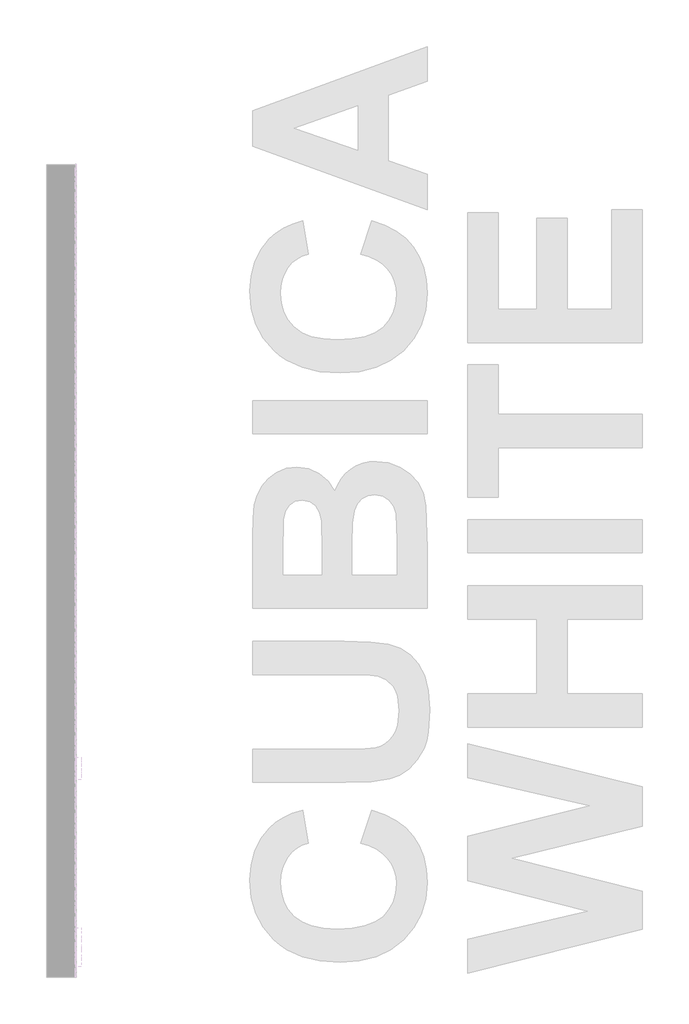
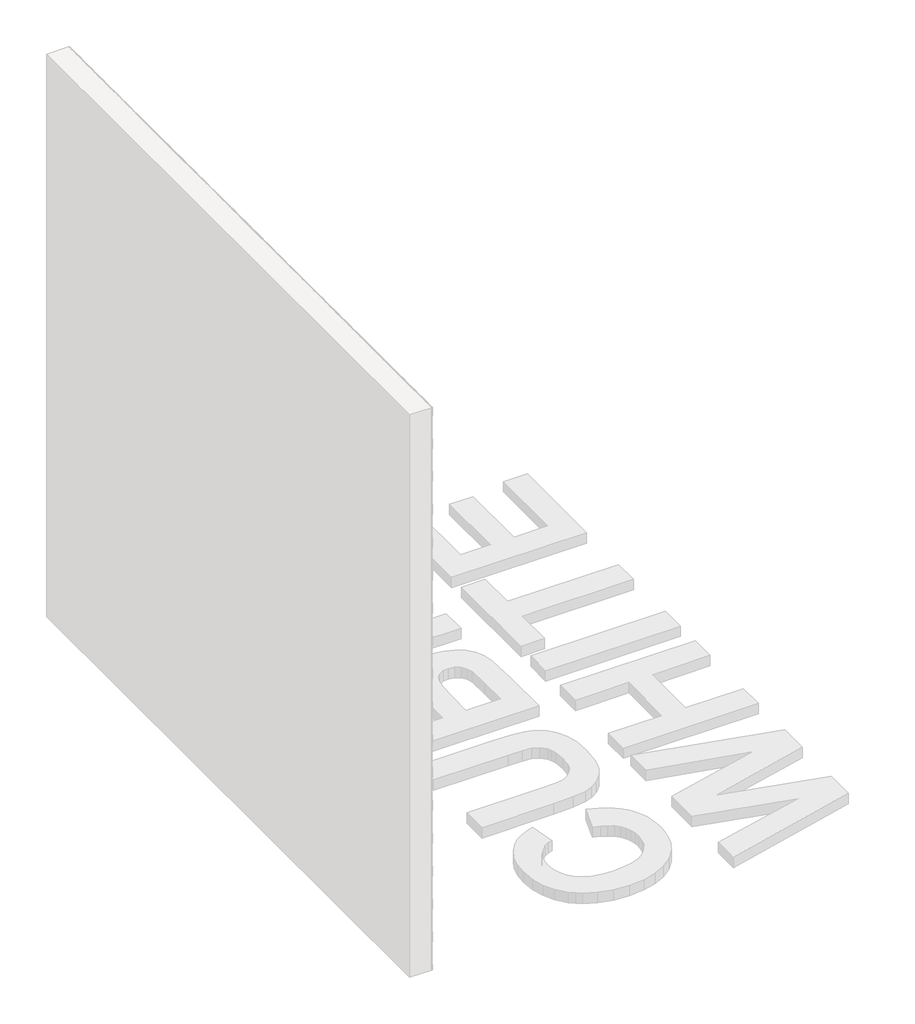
# One storey, part 107 of 121: 145 proxies.
"""IFC4 building model written with IfcOpenShell, lengths in millimetres."""

from ifc_helpers import new_model, si_unit, origin, place, context, project, spatial, transform, mapped, element, save
from components import generic_models_b2b2c5c1, generic_models_9bf73f6f, generic_models_5d175859

model = new_model("IFC4")

# Units and contexts
model_context = context("Model", 3, world=origin())
ifc_project = project(units=[si_unit("LENGTHUNIT", "METRE", prefix="MILLI")], contexts=[model_context])

# Site, building, storey
site = spatial("IfcSite", under=ifc_project)
building = spatial("IfcBuilding", under=site)
storey = spatial("IfcBuildingStorey", under=building, Name="PORTOBELLO - SHOWROOM", Elevation=0.0)

# Proxies
placement = place(None, origin())
generic_models_shape = generic_models_b2b2c5c1(model_context)
element("IfcBuildingElementProxy", 1, Name="PBSHOP - CUBICA WHITE 4,8X8,3 : CUBICA WHITE - POSIÇÃO 01", ObjectType="PBSHOP - CUBICA WHITE 4,8X8,3 : CUBICA WHITE - POSIÇÃO 01", at=placement, inside=storey, context=model_context, shape_type="MappedRepresentation", body=[
    mapped(generic_models_shape, transform((150369.5341846, 20740.8153227, 828.7685506), x_axis=(0.0, 1.0, 0.0), y_axis=(0.0, 0.0, 1.0), z_axis=(1.0, 0.0, 0.0))),
])
element("IfcBuildingElementProxy", 2, Name="PBSHOP - CUBICA WHITE 4,8X8,3 : CUBICA WHITE - POSIÇÃO 01", ObjectType="PBSHOP - CUBICA WHITE 4,8X8,3 : CUBICA WHITE - POSIÇÃO 01", at=placement, inside=storey, context=model_context, shape_type="MappedRepresentation", body=[
    mapped(generic_models_shape, transform((150369.5341846, 20831.654592, 828.7685506), x_axis=(0.0, 1.0, 0.0), y_axis=(0.0, 0.0, 1.0), z_axis=(1.0, 0.0, 0.0))),
])
element("IfcBuildingElementProxy", 3, Name="PBSHOP - CUBICA WHITE 4,8X8,3 : CUBICA WHITE - POSIÇÃO 01", ObjectType="PBSHOP - CUBICA WHITE 4,8X8,3 : CUBICA WHITE - POSIÇÃO 01", at=placement, inside=storey, context=model_context, shape_type="MappedRepresentation", body=[
    mapped(generic_models_shape, transform((150369.5341846, 20922.4938612, 828.7685506), x_axis=(0.0, 1.0, 0.0), y_axis=(0.0, 0.0, 1.0), z_axis=(1.0, 0.0, 0.0))),
])
element("IfcBuildingElementProxy", 4, Name="PBSHOP - CUBICA WHITE 4,8X8,3 : CUBICA WHITE - POSIÇÃO 01", ObjectType="PBSHOP - CUBICA WHITE 4,8X8,3 : CUBICA WHITE - POSIÇÃO 01", at=placement, inside=storey, context=model_context, shape_type="MappedRepresentation", body=[
    mapped(generic_models_shape, transform((150369.5341846, 20059.5208034, 907.7031889), x_axis=(0.0, 1.0, 0.0), y_axis=(0.0, 0.0, 1.0), z_axis=(1.0, 0.0, 0.0))),
])
element("IfcBuildingElementProxy", 5, Name="PBSHOP - CUBICA WHITE 4,8X8,3 : CUBICA WHITE - POSIÇÃO 01", ObjectType="PBSHOP - CUBICA WHITE 4,8X8,3 : CUBICA WHITE - POSIÇÃO 01", at=placement, inside=storey, context=model_context, shape_type="MappedRepresentation", body=[
    mapped(generic_models_shape, transform((150369.5341846, 20150.3600726, 907.7031889), x_axis=(0.0, 1.0, 0.0), y_axis=(0.0, 0.0, 1.0), z_axis=(1.0, 0.0, 0.0))),
])
element("IfcBuildingElementProxy", 6, Name="PBSHOP - CUBICA WHITE 4,8X8,3 : CUBICA WHITE - POSIÇÃO 01", ObjectType="PBSHOP - CUBICA WHITE 4,8X8,3 : CUBICA WHITE - POSIÇÃO 01", at=placement, inside=storey, context=model_context, shape_type="MappedRepresentation", body=[
    mapped(generic_models_shape, transform((150369.5341846, 20241.1993419, 907.7031889), x_axis=(0.0, 1.0, 0.0), y_axis=(0.0, 0.0, 1.0), z_axis=(1.0, 0.0, 0.0))),
])
element("IfcBuildingElementProxy", 7, Name="PBSHOP - CUBICA WHITE 4,8X8,3 : CUBICA WHITE - POSIÇÃO 01", ObjectType="PBSHOP - CUBICA WHITE 4,8X8,3 : CUBICA WHITE - POSIÇÃO 01", at=placement, inside=storey, context=model_context, shape_type="MappedRepresentation", body=[
    mapped(generic_models_shape, transform((150369.5341846, 20332.0386111, 907.7031889), x_axis=(0.0, 1.0, 0.0), y_axis=(0.0, 0.0, 1.0), z_axis=(1.0, 0.0, 0.0))),
])
element("IfcBuildingElementProxy", 8, Name="PBSHOP - CUBICA WHITE 4,8X8,3 : CUBICA WHITE - POSIÇÃO 01", ObjectType="PBSHOP - CUBICA WHITE 4,8X8,3 : CUBICA WHITE - POSIÇÃO 01", at=placement, inside=storey, context=model_context, shape_type="MappedRepresentation", body=[
    mapped(generic_models_shape, transform((150369.5341846, 20422.8778804, 907.7031889), x_axis=(0.0, 1.0, 0.0), y_axis=(0.0, 0.0, 1.0), z_axis=(1.0, 0.0, 0.0))),
])
element("IfcBuildingElementProxy", 9, Name="PBSHOP - CUBICA WHITE 4,8X8,3 : CUBICA WHITE - POSIÇÃO 01", ObjectType="PBSHOP - CUBICA WHITE 4,8X8,3 : CUBICA WHITE - POSIÇÃO 01", at=placement, inside=storey, context=model_context, shape_type="MappedRepresentation", body=[
    mapped(generic_models_shape, transform((150369.5341846, 20513.7171496, 907.7031889), x_axis=(0.0, 1.0, 0.0), y_axis=(0.0, 0.0, 1.0), z_axis=(1.0, 0.0, 0.0))),
])
element("IfcBuildingElementProxy", 10, Name="PBSHOP - CUBICA WHITE 4,8X8,3 : CUBICA WHITE - POSIÇÃO 01", ObjectType="PBSHOP - CUBICA WHITE 4,8X8,3 : CUBICA WHITE - POSIÇÃO 01", at=placement, inside=storey, context=model_context, shape_type="MappedRepresentation", body=[
    mapped(generic_models_shape, transform((150369.5341846, 20604.5564189, 907.7031889), x_axis=(0.0, 1.0, 0.0), y_axis=(0.0, 0.0, 1.0), z_axis=(1.0, 0.0, 0.0))),
])
element("IfcBuildingElementProxy", 11, Name="PBSHOP - CUBICA WHITE 4,8X8,3 : CUBICA WHITE - POSIÇÃO 01", ObjectType="PBSHOP - CUBICA WHITE 4,8X8,3 : CUBICA WHITE - POSIÇÃO 01", at=placement, inside=storey, context=model_context, shape_type="MappedRepresentation", body=[
    mapped(generic_models_shape, transform((150369.5341846, 20695.3956881, 907.7031889), x_axis=(0.0, 1.0, 0.0), y_axis=(0.0, 0.0, 1.0), z_axis=(1.0, 0.0, 0.0))),
])
element("IfcBuildingElementProxy", 12, Name="PBSHOP - CUBICA WHITE 4,8X8,3 : CUBICA WHITE - POSIÇÃO 01", ObjectType="PBSHOP - CUBICA WHITE 4,8X8,3 : CUBICA WHITE - POSIÇÃO 01", at=placement, inside=storey, context=model_context, shape_type="MappedRepresentation", body=[
    mapped(generic_models_shape, transform((150369.5341846, 20786.2349573, 907.7031889), x_axis=(0.0, 1.0, 0.0), y_axis=(0.0, 0.0, 1.0), z_axis=(1.0, 0.0, 0.0))),
])
element("IfcBuildingElementProxy", 13, Name="PBSHOP - CUBICA WHITE 4,8X8,3 : CUBICA WHITE - POSIÇÃO 01", ObjectType="PBSHOP - CUBICA WHITE 4,8X8,3 : CUBICA WHITE - POSIÇÃO 01", at=placement, inside=storey, context=model_context, shape_type="MappedRepresentation", body=[
    mapped(generic_models_shape, transform((150369.5341846, 20877.0742266, 907.7031889), x_axis=(0.0, 1.0, 0.0), y_axis=(0.0, 0.0, 1.0), z_axis=(1.0, 0.0, 0.0))),
])
element("IfcBuildingElementProxy", 14, Name="PBSHOP - CUBICA WHITE 4,8X8,3 : CUBICA WHITE - POSIÇÃO 01", ObjectType="PBSHOP - CUBICA WHITE 4,8X8,3 : CUBICA WHITE - POSIÇÃO 01", at=placement, inside=storey, context=model_context, shape_type="MappedRepresentation", body=[
    mapped(generic_models_shape, transform((150369.5341846, 20967.9134958, 907.7031889), x_axis=(0.0, 1.0, 0.0), y_axis=(0.0, 0.0, 1.0), z_axis=(1.0, 0.0, 0.0))),
])
element("IfcBuildingElementProxy", 15, Name="PBSHOP - CUBICA WHITE 4,8X8,3 : CUBICA WHITE - POSIÇÃO 01", ObjectType="PBSHOP - CUBICA WHITE 4,8X8,3 : CUBICA WHITE - POSIÇÃO 01", at=placement, inside=storey, context=model_context, shape_type="MappedRepresentation", body=[
    mapped(generic_models_shape, transform((150369.5341846, 20014.1011688, 986.6378273), x_axis=(0.0, 1.0, 0.0), y_axis=(0.0, 0.0, 1.0), z_axis=(1.0, 0.0, 0.0))),
])
element("IfcBuildingElementProxy", 16, Name="PBSHOP - CUBICA WHITE 4,8X8,3 : CUBICA WHITE - POSIÇÃO 01", ObjectType="PBSHOP - CUBICA WHITE 4,8X8,3 : CUBICA WHITE - POSIÇÃO 01", at=placement, inside=storey, context=model_context, shape_type="MappedRepresentation", body=[
    mapped(generic_models_shape, transform((150369.5341846, 20104.940438, 986.6378273), x_axis=(0.0, 1.0, 0.0), y_axis=(0.0, 0.0, 1.0), z_axis=(1.0, 0.0, 0.0))),
])
element("IfcBuildingElementProxy", 17, Name="PBSHOP - CUBICA WHITE 4,8X8,3 : CUBICA WHITE - POSIÇÃO 01", ObjectType="PBSHOP - CUBICA WHITE 4,8X8,3 : CUBICA WHITE - POSIÇÃO 01", at=placement, inside=storey, context=model_context, shape_type="MappedRepresentation", body=[
    mapped(generic_models_shape, transform((150369.5341846, 20195.7797073, 986.6378273), x_axis=(0.0, 1.0, 0.0), y_axis=(0.0, 0.0, 1.0), z_axis=(1.0, 0.0, 0.0))),
])
element("IfcBuildingElementProxy", 18, Name="PBSHOP - CUBICA WHITE 4,8X8,3 : CUBICA WHITE - POSIÇÃO 01", ObjectType="PBSHOP - CUBICA WHITE 4,8X8,3 : CUBICA WHITE - POSIÇÃO 01", at=placement, inside=storey, context=model_context, shape_type="MappedRepresentation", body=[
    mapped(generic_models_shape, transform((150369.5341846, 20286.6189765, 986.6378273), x_axis=(0.0, 1.0, 0.0), y_axis=(0.0, 0.0, 1.0), z_axis=(1.0, 0.0, 0.0))),
])
element("IfcBuildingElementProxy", 19, Name="PBSHOP - CUBICA WHITE 4,8X8,3 : CUBICA WHITE - POSIÇÃO 01", ObjectType="PBSHOP - CUBICA WHITE 4,8X8,3 : CUBICA WHITE - POSIÇÃO 01", at=placement, inside=storey, context=model_context, shape_type="MappedRepresentation", body=[
    mapped(generic_models_shape, transform((150369.5341846, 20377.4582457, 986.6378273), x_axis=(0.0, 1.0, 0.0), y_axis=(0.0, 0.0, 1.0), z_axis=(1.0, 0.0, 0.0))),
])
element("IfcBuildingElementProxy", 20, Name="PBSHOP - CUBICA WHITE 4,8X8,3 : CUBICA WHITE - POSIÇÃO 01", ObjectType="PBSHOP - CUBICA WHITE 4,8X8,3 : CUBICA WHITE - POSIÇÃO 01", at=placement, inside=storey, context=model_context, shape_type="MappedRepresentation", body=[
    mapped(generic_models_shape, transform((150369.5341846, 20468.297515, 986.6378273), x_axis=(0.0, 1.0, 0.0), y_axis=(0.0, 0.0, 1.0), z_axis=(1.0, 0.0, 0.0))),
])
element("IfcBuildingElementProxy", 21, Name="PBSHOP - CUBICA WHITE 4,8X8,3 : CUBICA WHITE - POSIÇÃO 01", ObjectType="PBSHOP - CUBICA WHITE 4,8X8,3 : CUBICA WHITE - POSIÇÃO 01", at=placement, inside=storey, context=model_context, shape_type="MappedRepresentation", body=[
    mapped(generic_models_shape, transform((150369.5341846, 20559.1367842, 986.6378273), x_axis=(0.0, 1.0, 0.0), y_axis=(0.0, 0.0, 1.0), z_axis=(1.0, 0.0, 0.0))),
])
element("IfcBuildingElementProxy", 22, Name="PBSHOP - CUBICA WHITE 4,8X8,3 : CUBICA WHITE - POSIÇÃO 01", ObjectType="PBSHOP - CUBICA WHITE 4,8X8,3 : CUBICA WHITE - POSIÇÃO 01", at=placement, inside=storey, context=model_context, shape_type="MappedRepresentation", body=[
    mapped(generic_models_shape, transform((150369.5341846, 20649.9760535, 986.6378273), x_axis=(0.0, 1.0, 0.0), y_axis=(0.0, 0.0, 1.0), z_axis=(1.0, 0.0, 0.0))),
])
element("IfcBuildingElementProxy", 23, Name="PBSHOP - CUBICA WHITE 4,8X8,3 : CUBICA WHITE - POSIÇÃO 01", ObjectType="PBSHOP - CUBICA WHITE 4,8X8,3 : CUBICA WHITE - POSIÇÃO 01", at=placement, inside=storey, context=model_context, shape_type="MappedRepresentation", body=[
    mapped(generic_models_shape, transform((150369.5341846, 20740.8153227, 986.6378273), x_axis=(0.0, 1.0, 0.0), y_axis=(0.0, 0.0, 1.0), z_axis=(1.0, 0.0, 0.0))),
])
element("IfcBuildingElementProxy", 24, Name="PBSHOP - CUBICA WHITE 4,8X8,3 : CUBICA WHITE - POSIÇÃO 01", ObjectType="PBSHOP - CUBICA WHITE 4,8X8,3 : CUBICA WHITE - POSIÇÃO 01", at=placement, inside=storey, context=model_context, shape_type="MappedRepresentation", body=[
    mapped(generic_models_shape, transform((150369.5341846, 20831.654592, 986.6378273), x_axis=(0.0, 1.0, 0.0), y_axis=(0.0, 0.0, 1.0), z_axis=(1.0, 0.0, 0.0))),
])
element("IfcBuildingElementProxy", 25, Name="PBSHOP - CUBICA WHITE 4,8X8,3 : CUBICA WHITE - POSIÇÃO 01", ObjectType="PBSHOP - CUBICA WHITE 4,8X8,3 : CUBICA WHITE - POSIÇÃO 01", at=placement, inside=storey, context=model_context, shape_type="MappedRepresentation", body=[
    mapped(generic_models_shape, transform((150369.5341846, 20922.4938612, 986.6378273), x_axis=(0.0, 1.0, 0.0), y_axis=(0.0, 0.0, 1.0), z_axis=(1.0, 0.0, 0.0))),
])
element("IfcBuildingElementProxy", 26, Name="PBSHOP - CUBICA WHITE 4,8X8,3 : CUBICA WHITE - POSIÇÃO 01", ObjectType="PBSHOP - CUBICA WHITE 4,8X8,3 : CUBICA WHITE - POSIÇÃO 01", at=placement, inside=storey, context=model_context, shape_type="MappedRepresentation", body=[
    mapped(generic_models_shape, transform((150369.5341846, 20059.5208034, 1065.5724657), x_axis=(0.0, 1.0, 0.0), y_axis=(0.0, 0.0, 1.0), z_axis=(1.0, 0.0, 0.0))),
])
element("IfcBuildingElementProxy", 27, Name="PBSHOP - CUBICA WHITE 4,8X8,3 : CUBICA WHITE - POSIÇÃO 01", ObjectType="PBSHOP - CUBICA WHITE 4,8X8,3 : CUBICA WHITE - POSIÇÃO 01", at=placement, inside=storey, context=model_context, shape_type="MappedRepresentation", body=[
    mapped(generic_models_shape, transform((150369.5341846, 20150.3600726, 1065.5724657), x_axis=(0.0, 1.0, 0.0), y_axis=(0.0, 0.0, 1.0), z_axis=(1.0, 0.0, 0.0))),
])
element("IfcBuildingElementProxy", 28, Name="PBSHOP - CUBICA WHITE 4,8X8,3 : CUBICA WHITE - POSIÇÃO 01", ObjectType="PBSHOP - CUBICA WHITE 4,8X8,3 : CUBICA WHITE - POSIÇÃO 01", at=placement, inside=storey, context=model_context, shape_type="MappedRepresentation", body=[
    mapped(generic_models_shape, transform((150369.5341846, 20241.1993419, 1065.5724657), x_axis=(0.0, 1.0, 0.0), y_axis=(0.0, 0.0, 1.0), z_axis=(1.0, 0.0, 0.0))),
])
element("IfcBuildingElementProxy", 29, Name="PBSHOP - CUBICA WHITE 4,8X8,3 : CUBICA WHITE - POSIÇÃO 01", ObjectType="PBSHOP - CUBICA WHITE 4,8X8,3 : CUBICA WHITE - POSIÇÃO 01", at=placement, inside=storey, context=model_context, shape_type="MappedRepresentation", body=[
    mapped(generic_models_shape, transform((150369.5341846, 20332.0386111, 1065.5724657), x_axis=(0.0, 1.0, 0.0), y_axis=(0.0, 0.0, 1.0), z_axis=(1.0, 0.0, 0.0))),
])
element("IfcBuildingElementProxy", 30, Name="PBSHOP - CUBICA WHITE 4,8X8,3 : CUBICA WHITE - POSIÇÃO 01", ObjectType="PBSHOP - CUBICA WHITE 4,8X8,3 : CUBICA WHITE - POSIÇÃO 01", at=placement, inside=storey, context=model_context, shape_type="MappedRepresentation", body=[
    mapped(generic_models_shape, transform((150369.5341846, 20422.8778804, 1065.5724657), x_axis=(0.0, 1.0, 0.0), y_axis=(0.0, 0.0, 1.0), z_axis=(1.0, 0.0, 0.0))),
])
element("IfcBuildingElementProxy", 31, Name="PBSHOP - CUBICA WHITE 4,8X8,3 : CUBICA WHITE - POSIÇÃO 01", ObjectType="PBSHOP - CUBICA WHITE 4,8X8,3 : CUBICA WHITE - POSIÇÃO 01", at=placement, inside=storey, context=model_context, shape_type="MappedRepresentation", body=[
    mapped(generic_models_shape, transform((150369.5341846, 20513.7171496, 1065.5724657), x_axis=(0.0, 1.0, 0.0), y_axis=(0.0, 0.0, 1.0), z_axis=(1.0, 0.0, 0.0))),
])
element("IfcBuildingElementProxy", 32, Name="PBSHOP - CUBICA WHITE 4,8X8,3 : CUBICA WHITE - POSIÇÃO 01", ObjectType="PBSHOP - CUBICA WHITE 4,8X8,3 : CUBICA WHITE - POSIÇÃO 01", at=placement, inside=storey, context=model_context, shape_type="MappedRepresentation", body=[
    mapped(generic_models_shape, transform((150369.5341846, 20604.5564189, 1065.5724657), x_axis=(0.0, 1.0, 0.0), y_axis=(0.0, 0.0, 1.0), z_axis=(1.0, 0.0, 0.0))),
])
element("IfcBuildingElementProxy", 33, Name="PBSHOP - CUBICA WHITE 4,8X8,3 : CUBICA WHITE - POSIÇÃO 01", ObjectType="PBSHOP - CUBICA WHITE 4,8X8,3 : CUBICA WHITE - POSIÇÃO 01", at=placement, inside=storey, context=model_context, shape_type="MappedRepresentation", body=[
    mapped(generic_models_shape, transform((150369.5341846, 20695.3956881, 1065.5724657), x_axis=(0.0, 1.0, 0.0), y_axis=(0.0, 0.0, 1.0), z_axis=(1.0, 0.0, 0.0))),
])
element("IfcBuildingElementProxy", 34, Name="PBSHOP - CUBICA WHITE 4,8X8,3 : CUBICA WHITE - POSIÇÃO 01", ObjectType="PBSHOP - CUBICA WHITE 4,8X8,3 : CUBICA WHITE - POSIÇÃO 01", at=placement, inside=storey, context=model_context, shape_type="MappedRepresentation", body=[
    mapped(generic_models_shape, transform((150369.5341846, 20786.2349573, 1065.5724657), x_axis=(0.0, 1.0, 0.0), y_axis=(0.0, 0.0, 1.0), z_axis=(1.0, 0.0, 0.0))),
])
element("IfcBuildingElementProxy", 35, Name="PBSHOP - CUBICA WHITE 4,8X8,3 : CUBICA WHITE - POSIÇÃO 01", ObjectType="PBSHOP - CUBICA WHITE 4,8X8,3 : CUBICA WHITE - POSIÇÃO 01", at=placement, inside=storey, context=model_context, shape_type="MappedRepresentation", body=[
    mapped(generic_models_shape, transform((150369.5341846, 20877.0742266, 1065.5724657), x_axis=(0.0, 1.0, 0.0), y_axis=(0.0, 0.0, 1.0), z_axis=(1.0, 0.0, 0.0))),
])
element("IfcBuildingElementProxy", 36, Name="PBSHOP - CUBICA WHITE 4,8X8,3 : CUBICA WHITE - POSIÇÃO 01", ObjectType="PBSHOP - CUBICA WHITE 4,8X8,3 : CUBICA WHITE - POSIÇÃO 01", at=placement, inside=storey, context=model_context, shape_type="MappedRepresentation", body=[
    mapped(generic_models_shape, transform((150369.5341846, 20967.9134958, 1065.5724657), x_axis=(0.0, 1.0, 0.0), y_axis=(0.0, 0.0, 1.0), z_axis=(1.0, 0.0, 0.0))),
])
element("IfcBuildingElementProxy", 37, Name="PBSHOP - CUBICA WHITE 4,8X8,3 : CUBICA WHITE - POSIÇÃO 01", ObjectType="PBSHOP - CUBICA WHITE 4,8X8,3 : CUBICA WHITE - POSIÇÃO 01", at=placement, inside=storey, context=model_context, shape_type="MappedRepresentation", body=[
    mapped(generic_models_shape, transform((150369.5341846, 20014.1011688, 1144.507104), x_axis=(0.0, 1.0, 0.0), y_axis=(0.0, 0.0, 1.0), z_axis=(1.0, 0.0, 0.0))),
])
element("IfcBuildingElementProxy", 38, Name="PBSHOP - CUBICA WHITE 4,8X8,3 : CUBICA WHITE - POSIÇÃO 01", ObjectType="PBSHOP - CUBICA WHITE 4,8X8,3 : CUBICA WHITE - POSIÇÃO 01", at=placement, inside=storey, context=model_context, shape_type="MappedRepresentation", body=[
    mapped(generic_models_shape, transform((150369.5341846, 20104.940438, 1144.507104), x_axis=(0.0, 1.0, 0.0), y_axis=(0.0, 0.0, 1.0), z_axis=(1.0, 0.0, 0.0))),
])
element("IfcBuildingElementProxy", 39, Name="PBSHOP - CUBICA WHITE 4,8X8,3 : CUBICA WHITE - POSIÇÃO 01", ObjectType="PBSHOP - CUBICA WHITE 4,8X8,3 : CUBICA WHITE - POSIÇÃO 01", at=placement, inside=storey, context=model_context, shape_type="MappedRepresentation", body=[
    mapped(generic_models_shape, transform((150369.5341846, 20195.7797073, 1144.507104), x_axis=(0.0, 1.0, 0.0), y_axis=(0.0, 0.0, 1.0), z_axis=(1.0, 0.0, 0.0))),
])
element("IfcBuildingElementProxy", 40, Name="PBSHOP - CUBICA WHITE 4,8X8,3 : CUBICA WHITE - POSIÇÃO 01", ObjectType="PBSHOP - CUBICA WHITE 4,8X8,3 : CUBICA WHITE - POSIÇÃO 01", at=placement, inside=storey, context=model_context, shape_type="MappedRepresentation", body=[
    mapped(generic_models_shape, transform((150369.5341846, 20286.6189765, 1144.507104), x_axis=(0.0, 1.0, 0.0), y_axis=(0.0, 0.0, 1.0), z_axis=(1.0, 0.0, 0.0))),
])
element("IfcBuildingElementProxy", 41, Name="PBSHOP - CUBICA WHITE 4,8X8,3 : CUBICA WHITE - POSIÇÃO 01", ObjectType="PBSHOP - CUBICA WHITE 4,8X8,3 : CUBICA WHITE - POSIÇÃO 01", at=placement, inside=storey, context=model_context, shape_type="MappedRepresentation", body=[
    mapped(generic_models_shape, transform((150369.5341846, 20377.4582457, 1144.507104), x_axis=(0.0, 1.0, 0.0), y_axis=(0.0, 0.0, 1.0), z_axis=(1.0, 0.0, 0.0))),
])
element("IfcBuildingElementProxy", 42, Name="PBSHOP - CUBICA WHITE 4,8X8,3 : CUBICA WHITE - POSIÇÃO 01", ObjectType="PBSHOP - CUBICA WHITE 4,8X8,3 : CUBICA WHITE - POSIÇÃO 01", at=placement, inside=storey, context=model_context, shape_type="MappedRepresentation", body=[
    mapped(generic_models_shape, transform((150369.5341846, 20468.297515, 1144.507104), x_axis=(0.0, 1.0, 0.0), y_axis=(0.0, 0.0, 1.0), z_axis=(1.0, 0.0, 0.0))),
])
element("IfcBuildingElementProxy", 43, Name="PBSHOP - CUBICA WHITE 4,8X8,3 : CUBICA WHITE - POSIÇÃO 01", ObjectType="PBSHOP - CUBICA WHITE 4,8X8,3 : CUBICA WHITE - POSIÇÃO 01", at=placement, inside=storey, context=model_context, shape_type="MappedRepresentation", body=[
    mapped(generic_models_shape, transform((150369.5341846, 20559.1367842, 1144.507104), x_axis=(0.0, 1.0, 0.0), y_axis=(0.0, 0.0, 1.0), z_axis=(1.0, 0.0, 0.0))),
])
element("IfcBuildingElementProxy", 44, Name="PBSHOP - CUBICA WHITE 4,8X8,3 : CUBICA WHITE - POSIÇÃO 01", ObjectType="PBSHOP - CUBICA WHITE 4,8X8,3 : CUBICA WHITE - POSIÇÃO 01", at=placement, inside=storey, context=model_context, shape_type="MappedRepresentation", body=[
    mapped(generic_models_shape, transform((150369.5341846, 20649.9760535, 1144.507104), x_axis=(0.0, 1.0, 0.0), y_axis=(0.0, 0.0, 1.0), z_axis=(1.0, 0.0, 0.0))),
])
element("IfcBuildingElementProxy", 45, Name="PBSHOP - CUBICA WHITE 4,8X8,3 : CUBICA WHITE - POSIÇÃO 01", ObjectType="PBSHOP - CUBICA WHITE 4,8X8,3 : CUBICA WHITE - POSIÇÃO 01", at=placement, inside=storey, context=model_context, shape_type="MappedRepresentation", body=[
    mapped(generic_models_shape, transform((150369.5341846, 20740.8153227, 1144.507104), x_axis=(0.0, 1.0, 0.0), y_axis=(0.0, 0.0, 1.0), z_axis=(1.0, 0.0, 0.0))),
])
element("IfcBuildingElementProxy", 46, Name="PBSHOP - CUBICA WHITE 4,8X8,3 : CUBICA WHITE - POSIÇÃO 01", ObjectType="PBSHOP - CUBICA WHITE 4,8X8,3 : CUBICA WHITE - POSIÇÃO 01", at=placement, inside=storey, context=model_context, shape_type="MappedRepresentation", body=[
    mapped(generic_models_shape, transform((150369.5341846, 20831.654592, 1144.507104), x_axis=(0.0, 1.0, 0.0), y_axis=(0.0, 0.0, 1.0), z_axis=(1.0, 0.0, 0.0))),
])
element("IfcBuildingElementProxy", 47, Name="PBSHOP - CUBICA WHITE 4,8X8,3 : CUBICA WHITE - POSIÇÃO 01", ObjectType="PBSHOP - CUBICA WHITE 4,8X8,3 : CUBICA WHITE - POSIÇÃO 01", at=placement, inside=storey, context=model_context, shape_type="MappedRepresentation", body=[
    mapped(generic_models_shape, transform((150369.5341846, 20922.4938612, 1144.507104), x_axis=(0.0, 1.0, 0.0), y_axis=(0.0, 0.0, 1.0), z_axis=(1.0, 0.0, 0.0))),
])
generic_models_2_shape = generic_models_9bf73f6f(model_context)
element("IfcBuildingElementProxy", 48, Name="PBSHOP - CUBICA WHITE 4,8X8,3 : CUBICA WHITE - POSIÇÃO 03", ObjectType="PBSHOP - CUBICA WHITE 4,8X8,3 : CUBICA WHITE - POSIÇÃO 03", at=placement, inside=storey, context=model_context, shape_type="MappedRepresentation", body=[
    mapped(generic_models_2_shape, transform((150369.5341846, 20082.2327799, 789.2600209), x_axis=(0.0, 1.0, 0.0), y_axis=(0.0, 0.0, 1.0), z_axis=(1.0, 0.0, 0.0))),
])
element("IfcBuildingElementProxy", 49, Name="PBSHOP - CUBICA WHITE 4,8X8,3 : CUBICA WHITE - POSIÇÃO 03", ObjectType="PBSHOP - CUBICA WHITE 4,8X8,3 : CUBICA WHITE - POSIÇÃO 03", at=placement, inside=storey, context=model_context, shape_type="MappedRepresentation", body=[
    mapped(generic_models_2_shape, transform((150369.5341846, 20173.0720491, 789.2600209), x_axis=(0.0, 1.0, 0.0), y_axis=(0.0, 0.0, 1.0), z_axis=(1.0, 0.0, 0.0))),
])
element("IfcBuildingElementProxy", 50, Name="PBSHOP - CUBICA WHITE 4,8X8,3 : CUBICA WHITE - POSIÇÃO 03", ObjectType="PBSHOP - CUBICA WHITE 4,8X8,3 : CUBICA WHITE - POSIÇÃO 03", at=placement, inside=storey, context=model_context, shape_type="MappedRepresentation", body=[
    mapped(generic_models_2_shape, transform((150369.5341846, 20263.9113184, 789.2600209), x_axis=(0.0, 1.0, 0.0), y_axis=(0.0, 0.0, 1.0), z_axis=(1.0, 0.0, 0.0))),
])
element("IfcBuildingElementProxy", 51, Name="PBSHOP - CUBICA WHITE 4,8X8,3 : CUBICA WHITE - POSIÇÃO 03", ObjectType="PBSHOP - CUBICA WHITE 4,8X8,3 : CUBICA WHITE - POSIÇÃO 03", at=placement, inside=storey, context=model_context, shape_type="MappedRepresentation", body=[
    mapped(generic_models_2_shape, transform((150369.5341846, 20354.7505876, 789.2600209), x_axis=(0.0, 1.0, 0.0), y_axis=(0.0, 0.0, 1.0), z_axis=(1.0, 0.0, 0.0))),
])
element("IfcBuildingElementProxy", 52, Name="PBSHOP - CUBICA WHITE 4,8X8,3 : CUBICA WHITE - POSIÇÃO 03", ObjectType="PBSHOP - CUBICA WHITE 4,8X8,3 : CUBICA WHITE - POSIÇÃO 03", at=placement, inside=storey, context=model_context, shape_type="MappedRepresentation", body=[
    mapped(generic_models_2_shape, transform((150369.5341846, 20445.5898568, 789.2600209), x_axis=(0.0, 1.0, 0.0), y_axis=(0.0, 0.0, 1.0), z_axis=(1.0, 0.0, 0.0))),
])
element("IfcBuildingElementProxy", 53, Name="PBSHOP - CUBICA WHITE 4,8X8,3 : CUBICA WHITE - POSIÇÃO 03", ObjectType="PBSHOP - CUBICA WHITE 4,8X8,3 : CUBICA WHITE - POSIÇÃO 03", at=placement, inside=storey, context=model_context, shape_type="MappedRepresentation", body=[
    mapped(generic_models_2_shape, transform((150369.5341846, 20536.4291261, 789.2600209), x_axis=(0.0, 1.0, 0.0), y_axis=(0.0, 0.0, 1.0), z_axis=(1.0, 0.0, 0.0))),
])
element("IfcBuildingElementProxy", 54, Name="PBSHOP - CUBICA WHITE 4,8X8,3 : CUBICA WHITE - POSIÇÃO 03", ObjectType="PBSHOP - CUBICA WHITE 4,8X8,3 : CUBICA WHITE - POSIÇÃO 03", at=placement, inside=storey, context=model_context, shape_type="MappedRepresentation", body=[
    mapped(generic_models_2_shape, transform((150369.5341846, 20627.2683953, 789.2600209), x_axis=(0.0, 1.0, 0.0), y_axis=(0.0, 0.0, 1.0), z_axis=(1.0, 0.0, 0.0))),
])
element("IfcBuildingElementProxy", 55, Name="PBSHOP - CUBICA WHITE 4,8X8,3 : CUBICA WHITE - POSIÇÃO 03", ObjectType="PBSHOP - CUBICA WHITE 4,8X8,3 : CUBICA WHITE - POSIÇÃO 03", at=placement, inside=storey, context=model_context, shape_type="MappedRepresentation", body=[
    mapped(generic_models_2_shape, transform((150369.5341846, 20718.1076646, 789.2600209), x_axis=(0.0, 1.0, 0.0), y_axis=(0.0, 0.0, 1.0), z_axis=(1.0, 0.0, 0.0))),
])
element("IfcBuildingElementProxy", 56, Name="PBSHOP - CUBICA WHITE 4,8X8,3 : CUBICA WHITE - POSIÇÃO 03", ObjectType="PBSHOP - CUBICA WHITE 4,8X8,3 : CUBICA WHITE - POSIÇÃO 03", at=placement, inside=storey, context=model_context, shape_type="MappedRepresentation", body=[
    mapped(generic_models_2_shape, transform((150369.5341846, 20808.9469338, 789.2600209), x_axis=(0.0, 1.0, 0.0), y_axis=(0.0, 0.0, 1.0), z_axis=(1.0, 0.0, 0.0))),
])
element("IfcBuildingElementProxy", 57, Name="PBSHOP - CUBICA WHITE 4,8X8,3 : CUBICA WHITE - POSIÇÃO 03", ObjectType="PBSHOP - CUBICA WHITE 4,8X8,3 : CUBICA WHITE - POSIÇÃO 03", at=placement, inside=storey, context=model_context, shape_type="MappedRepresentation", body=[
    mapped(generic_models_2_shape, transform((150369.5341846, 20899.7862031, 789.2600209), x_axis=(0.0, 1.0, 0.0), y_axis=(0.0, 0.0, 1.0), z_axis=(1.0, 0.0, 0.0))),
])
element("IfcBuildingElementProxy", 58, Name="PBSHOP - CUBICA WHITE 4,8X8,3 : CUBICA WHITE - POSIÇÃO 03", ObjectType="PBSHOP - CUBICA WHITE 4,8X8,3 : CUBICA WHITE - POSIÇÃO 03", at=placement, inside=storey, context=model_context, shape_type="MappedRepresentation", body=[
    mapped(generic_models_2_shape, transform((150369.5341846, 20990.6254723, 789.2600209), x_axis=(0.0, 1.0, 0.0), y_axis=(0.0, 0.0, 1.0), z_axis=(1.0, 0.0, 0.0))),
])
element("IfcBuildingElementProxy", 59, Name="PBSHOP - CUBICA WHITE 4,8X8,3 : CUBICA WHITE - POSIÇÃO 03", ObjectType="PBSHOP - CUBICA WHITE 4,8X8,3 : CUBICA WHITE - POSIÇÃO 03", at=placement, inside=storey, context=model_context, shape_type="MappedRepresentation", body=[
    mapped(generic_models_2_shape, transform((150369.5341846, 20036.8131452, 868.1946593), x_axis=(0.0, 1.0, 0.0), y_axis=(0.0, 0.0, 1.0), z_axis=(1.0, 0.0, 0.0))),
])
element("IfcBuildingElementProxy", 60, Name="PBSHOP - CUBICA WHITE 4,8X8,3 : CUBICA WHITE - POSIÇÃO 03", ObjectType="PBSHOP - CUBICA WHITE 4,8X8,3 : CUBICA WHITE - POSIÇÃO 03", at=placement, inside=storey, context=model_context, shape_type="MappedRepresentation", body=[
    mapped(generic_models_2_shape, transform((150369.5341846, 20127.6524145, 868.1946593), x_axis=(0.0, 1.0, 0.0), y_axis=(0.0, 0.0, 1.0), z_axis=(1.0, 0.0, 0.0))),
])
element("IfcBuildingElementProxy", 61, Name="PBSHOP - CUBICA WHITE 4,8X8,3 : CUBICA WHITE - POSIÇÃO 03", ObjectType="PBSHOP - CUBICA WHITE 4,8X8,3 : CUBICA WHITE - POSIÇÃO 03", at=placement, inside=storey, context=model_context, shape_type="MappedRepresentation", body=[
    mapped(generic_models_2_shape, transform((150369.5341846, 20218.4916837, 868.1946593), x_axis=(0.0, 1.0, 0.0), y_axis=(0.0, 0.0, 1.0), z_axis=(1.0, 0.0, 0.0))),
])
element("IfcBuildingElementProxy", 62, Name="PBSHOP - CUBICA WHITE 4,8X8,3 : CUBICA WHITE - POSIÇÃO 03", ObjectType="PBSHOP - CUBICA WHITE 4,8X8,3 : CUBICA WHITE - POSIÇÃO 03", at=placement, inside=storey, context=model_context, shape_type="MappedRepresentation", body=[
    mapped(generic_models_2_shape, transform((150369.5341846, 20309.330953, 868.1946593), x_axis=(0.0, 1.0, 0.0), y_axis=(0.0, 0.0, 1.0), z_axis=(1.0, 0.0, 0.0))),
])
element("IfcBuildingElementProxy", 63, Name="PBSHOP - CUBICA WHITE 4,8X8,3 : CUBICA WHITE - POSIÇÃO 03", ObjectType="PBSHOP - CUBICA WHITE 4,8X8,3 : CUBICA WHITE - POSIÇÃO 03", at=placement, inside=storey, context=model_context, shape_type="MappedRepresentation", body=[
    mapped(generic_models_2_shape, transform((150369.5341846, 20400.1702222, 868.1946593), x_axis=(0.0, 1.0, 0.0), y_axis=(0.0, 0.0, 1.0), z_axis=(1.0, 0.0, 0.0))),
])
element("IfcBuildingElementProxy", 64, Name="PBSHOP - CUBICA WHITE 4,8X8,3 : CUBICA WHITE - POSIÇÃO 03", ObjectType="PBSHOP - CUBICA WHITE 4,8X8,3 : CUBICA WHITE - POSIÇÃO 03", at=placement, inside=storey, context=model_context, shape_type="MappedRepresentation", body=[
    mapped(generic_models_2_shape, transform((150369.5341846, 20491.0094915, 868.1946593), x_axis=(0.0, 1.0, 0.0), y_axis=(0.0, 0.0, 1.0), z_axis=(1.0, 0.0, 0.0))),
])
element("IfcBuildingElementProxy", 65, Name="PBSHOP - CUBICA WHITE 4,8X8,3 : CUBICA WHITE - POSIÇÃO 03", ObjectType="PBSHOP - CUBICA WHITE 4,8X8,3 : CUBICA WHITE - POSIÇÃO 03", at=placement, inside=storey, context=model_context, shape_type="MappedRepresentation", body=[
    mapped(generic_models_2_shape, transform((150369.5341846, 20581.8487607, 868.1946593), x_axis=(0.0, 1.0, 0.0), y_axis=(0.0, 0.0, 1.0), z_axis=(1.0, 0.0, 0.0))),
])
element("IfcBuildingElementProxy", 66, Name="PBSHOP - CUBICA WHITE 4,8X8,3 : CUBICA WHITE - POSIÇÃO 03", ObjectType="PBSHOP - CUBICA WHITE 4,8X8,3 : CUBICA WHITE - POSIÇÃO 03", at=placement, inside=storey, context=model_context, shape_type="MappedRepresentation", body=[
    mapped(generic_models_2_shape, transform((150369.5341846, 20672.6880299, 868.1946593), x_axis=(0.0, 1.0, 0.0), y_axis=(0.0, 0.0, 1.0), z_axis=(1.0, 0.0, 0.0))),
])
element("IfcBuildingElementProxy", 67, Name="PBSHOP - CUBICA WHITE 4,8X8,3 : CUBICA WHITE - POSIÇÃO 03", ObjectType="PBSHOP - CUBICA WHITE 4,8X8,3 : CUBICA WHITE - POSIÇÃO 03", at=placement, inside=storey, context=model_context, shape_type="MappedRepresentation", body=[
    mapped(generic_models_2_shape, transform((150369.5341846, 20763.5272992, 868.1946593), x_axis=(0.0, 1.0, 0.0), y_axis=(0.0, 0.0, 1.0), z_axis=(1.0, 0.0, 0.0))),
])
element("IfcBuildingElementProxy", 68, Name="PBSHOP - CUBICA WHITE 4,8X8,3 : CUBICA WHITE - POSIÇÃO 03", ObjectType="PBSHOP - CUBICA WHITE 4,8X8,3 : CUBICA WHITE - POSIÇÃO 03", at=placement, inside=storey, context=model_context, shape_type="MappedRepresentation", body=[
    mapped(generic_models_2_shape, transform((150369.5341846, 20854.3665684, 868.1946593), x_axis=(0.0, 1.0, 0.0), y_axis=(0.0, 0.0, 1.0), z_axis=(1.0, 0.0, 0.0))),
])
element("IfcBuildingElementProxy", 69, Name="PBSHOP - CUBICA WHITE 4,8X8,3 : CUBICA WHITE - POSIÇÃO 03", ObjectType="PBSHOP - CUBICA WHITE 4,8X8,3 : CUBICA WHITE - POSIÇÃO 03", at=placement, inside=storey, context=model_context, shape_type="MappedRepresentation", body=[
    mapped(generic_models_2_shape, transform((150369.5341846, 20945.2058377, 868.1946593), x_axis=(0.0, 1.0, 0.0), y_axis=(0.0, 0.0, 1.0), z_axis=(1.0, 0.0, 0.0))),
])
element("IfcBuildingElementProxy", 70, Name="PBSHOP - CUBICA WHITE 4,8X8,3 : CUBICA WHITE - POSIÇÃO 03", ObjectType="PBSHOP - CUBICA WHITE 4,8X8,3 : CUBICA WHITE - POSIÇÃO 03", at=placement, inside=storey, context=model_context, shape_type="MappedRepresentation", body=[
    mapped(generic_models_2_shape, transform((150369.5341846, 20082.2327799, 947.1292977), x_axis=(0.0, 1.0, 0.0), y_axis=(0.0, 0.0, 1.0), z_axis=(1.0, 0.0, 0.0))),
])
element("IfcBuildingElementProxy", 71, Name="PBSHOP - CUBICA WHITE 4,8X8,3 : CUBICA WHITE - POSIÇÃO 03", ObjectType="PBSHOP - CUBICA WHITE 4,8X8,3 : CUBICA WHITE - POSIÇÃO 03", at=placement, inside=storey, context=model_context, shape_type="MappedRepresentation", body=[
    mapped(generic_models_2_shape, transform((150369.5341846, 20173.0720491, 947.1292977), x_axis=(0.0, 1.0, 0.0), y_axis=(0.0, 0.0, 1.0), z_axis=(1.0, 0.0, 0.0))),
])
element("IfcBuildingElementProxy", 72, Name="PBSHOP - CUBICA WHITE 4,8X8,3 : CUBICA WHITE - POSIÇÃO 03", ObjectType="PBSHOP - CUBICA WHITE 4,8X8,3 : CUBICA WHITE - POSIÇÃO 03", at=placement, inside=storey, context=model_context, shape_type="MappedRepresentation", body=[
    mapped(generic_models_2_shape, transform((150369.5341846, 20263.9113184, 947.1292977), x_axis=(0.0, 1.0, 0.0), y_axis=(0.0, 0.0, 1.0), z_axis=(1.0, 0.0, 0.0))),
])
element("IfcBuildingElementProxy", 73, Name="PBSHOP - CUBICA WHITE 4,8X8,3 : CUBICA WHITE - POSIÇÃO 03", ObjectType="PBSHOP - CUBICA WHITE 4,8X8,3 : CUBICA WHITE - POSIÇÃO 03", at=placement, inside=storey, context=model_context, shape_type="MappedRepresentation", body=[
    mapped(generic_models_2_shape, transform((150369.5341846, 20354.7505876, 947.1292977), x_axis=(0.0, 1.0, 0.0), y_axis=(0.0, 0.0, 1.0), z_axis=(1.0, 0.0, 0.0))),
])
element("IfcBuildingElementProxy", 74, Name="PBSHOP - CUBICA WHITE 4,8X8,3 : CUBICA WHITE - POSIÇÃO 03", ObjectType="PBSHOP - CUBICA WHITE 4,8X8,3 : CUBICA WHITE - POSIÇÃO 03", at=placement, inside=storey, context=model_context, shape_type="MappedRepresentation", body=[
    mapped(generic_models_2_shape, transform((150369.5341846, 20445.5898568, 947.1292977), x_axis=(0.0, 1.0, 0.0), y_axis=(0.0, 0.0, 1.0), z_axis=(1.0, 0.0, 0.0))),
])
element("IfcBuildingElementProxy", 75, Name="PBSHOP - CUBICA WHITE 4,8X8,3 : CUBICA WHITE - POSIÇÃO 03", ObjectType="PBSHOP - CUBICA WHITE 4,8X8,3 : CUBICA WHITE - POSIÇÃO 03", at=placement, inside=storey, context=model_context, shape_type="MappedRepresentation", body=[
    mapped(generic_models_2_shape, transform((150369.5341846, 20536.4291261, 947.1292977), x_axis=(0.0, 1.0, 0.0), y_axis=(0.0, 0.0, 1.0), z_axis=(1.0, 0.0, 0.0))),
])
element("IfcBuildingElementProxy", 76, Name="PBSHOP - CUBICA WHITE 4,8X8,3 : CUBICA WHITE - POSIÇÃO 03", ObjectType="PBSHOP - CUBICA WHITE 4,8X8,3 : CUBICA WHITE - POSIÇÃO 03", at=placement, inside=storey, context=model_context, shape_type="MappedRepresentation", body=[
    mapped(generic_models_2_shape, transform((150369.5341846, 20627.2683953, 947.1292977), x_axis=(0.0, 1.0, 0.0), y_axis=(0.0, 0.0, 1.0), z_axis=(1.0, 0.0, 0.0))),
])
element("IfcBuildingElementProxy", 77, Name="PBSHOP - CUBICA WHITE 4,8X8,3 : CUBICA WHITE - POSIÇÃO 03", ObjectType="PBSHOP - CUBICA WHITE 4,8X8,3 : CUBICA WHITE - POSIÇÃO 03", at=placement, inside=storey, context=model_context, shape_type="MappedRepresentation", body=[
    mapped(generic_models_2_shape, transform((150369.5341846, 20718.1076646, 947.1292977), x_axis=(0.0, 1.0, 0.0), y_axis=(0.0, 0.0, 1.0), z_axis=(1.0, 0.0, 0.0))),
])
element("IfcBuildingElementProxy", 78, Name="PBSHOP - CUBICA WHITE 4,8X8,3 : CUBICA WHITE - POSIÇÃO 03", ObjectType="PBSHOP - CUBICA WHITE 4,8X8,3 : CUBICA WHITE - POSIÇÃO 03", at=placement, inside=storey, context=model_context, shape_type="MappedRepresentation", body=[
    mapped(generic_models_2_shape, transform((150369.5341846, 20808.9469338, 947.1292977), x_axis=(0.0, 1.0, 0.0), y_axis=(0.0, 0.0, 1.0), z_axis=(1.0, 0.0, 0.0))),
])
element("IfcBuildingElementProxy", 79, Name="PBSHOP - CUBICA WHITE 4,8X8,3 : CUBICA WHITE - POSIÇÃO 03", ObjectType="PBSHOP - CUBICA WHITE 4,8X8,3 : CUBICA WHITE - POSIÇÃO 03", at=placement, inside=storey, context=model_context, shape_type="MappedRepresentation", body=[
    mapped(generic_models_2_shape, transform((150369.5341846, 20899.7862031, 947.1292977), x_axis=(0.0, 1.0, 0.0), y_axis=(0.0, 0.0, 1.0), z_axis=(1.0, 0.0, 0.0))),
])
element("IfcBuildingElementProxy", 80, Name="PBSHOP - CUBICA WHITE 4,8X8,3 : CUBICA WHITE - POSIÇÃO 03", ObjectType="PBSHOP - CUBICA WHITE 4,8X8,3 : CUBICA WHITE - POSIÇÃO 03", at=placement, inside=storey, context=model_context, shape_type="MappedRepresentation", body=[
    mapped(generic_models_2_shape, transform((150369.5341846, 20990.6254723, 947.1292977), x_axis=(0.0, 1.0, 0.0), y_axis=(0.0, 0.0, 1.0), z_axis=(1.0, 0.0, 0.0))),
])
element("IfcBuildingElementProxy", 81, Name="PBSHOP - CUBICA WHITE 4,8X8,3 : CUBICA WHITE - POSIÇÃO 03", ObjectType="PBSHOP - CUBICA WHITE 4,8X8,3 : CUBICA WHITE - POSIÇÃO 03", at=placement, inside=storey, context=model_context, shape_type="MappedRepresentation", body=[
    mapped(generic_models_2_shape, transform((150369.5341846, 20036.8131452, 1026.0639361), x_axis=(0.0, 1.0, 0.0), y_axis=(0.0, 0.0, 1.0), z_axis=(1.0, 0.0, 0.0))),
])
element("IfcBuildingElementProxy", 82, Name="PBSHOP - CUBICA WHITE 4,8X8,3 : CUBICA WHITE - POSIÇÃO 03", ObjectType="PBSHOP - CUBICA WHITE 4,8X8,3 : CUBICA WHITE - POSIÇÃO 03", at=placement, inside=storey, context=model_context, shape_type="MappedRepresentation", body=[
    mapped(generic_models_2_shape, transform((150369.5341846, 20127.6524145, 1026.0639361), x_axis=(0.0, 1.0, 0.0), y_axis=(0.0, 0.0, 1.0), z_axis=(1.0, 0.0, 0.0))),
])
element("IfcBuildingElementProxy", 83, Name="PBSHOP - CUBICA WHITE 4,8X8,3 : CUBICA WHITE - POSIÇÃO 03", ObjectType="PBSHOP - CUBICA WHITE 4,8X8,3 : CUBICA WHITE - POSIÇÃO 03", at=placement, inside=storey, context=model_context, shape_type="MappedRepresentation", body=[
    mapped(generic_models_2_shape, transform((150369.5341846, 20218.4916837, 1026.0639361), x_axis=(0.0, 1.0, 0.0), y_axis=(0.0, 0.0, 1.0), z_axis=(1.0, 0.0, 0.0))),
])
element("IfcBuildingElementProxy", 84, Name="PBSHOP - CUBICA WHITE 4,8X8,3 : CUBICA WHITE - POSIÇÃO 03", ObjectType="PBSHOP - CUBICA WHITE 4,8X8,3 : CUBICA WHITE - POSIÇÃO 03", at=placement, inside=storey, context=model_context, shape_type="MappedRepresentation", body=[
    mapped(generic_models_2_shape, transform((150369.5341846, 20309.330953, 1026.0639361), x_axis=(0.0, 1.0, 0.0), y_axis=(0.0, 0.0, 1.0), z_axis=(1.0, 0.0, 0.0))),
])
element("IfcBuildingElementProxy", 85, Name="PBSHOP - CUBICA WHITE 4,8X8,3 : CUBICA WHITE - POSIÇÃO 03", ObjectType="PBSHOP - CUBICA WHITE 4,8X8,3 : CUBICA WHITE - POSIÇÃO 03", at=placement, inside=storey, context=model_context, shape_type="MappedRepresentation", body=[
    mapped(generic_models_2_shape, transform((150369.5341846, 20400.1702222, 1026.0639361), x_axis=(0.0, 1.0, 0.0), y_axis=(0.0, 0.0, 1.0), z_axis=(1.0, 0.0, 0.0))),
])
element("IfcBuildingElementProxy", 86, Name="PBSHOP - CUBICA WHITE 4,8X8,3 : CUBICA WHITE - POSIÇÃO 03", ObjectType="PBSHOP - CUBICA WHITE 4,8X8,3 : CUBICA WHITE - POSIÇÃO 03", at=placement, inside=storey, context=model_context, shape_type="MappedRepresentation", body=[
    mapped(generic_models_2_shape, transform((150369.5341846, 20491.0094915, 1026.0639361), x_axis=(0.0, 1.0, 0.0), y_axis=(0.0, 0.0, 1.0), z_axis=(1.0, 0.0, 0.0))),
])
element("IfcBuildingElementProxy", 87, Name="PBSHOP - CUBICA WHITE 4,8X8,3 : CUBICA WHITE - POSIÇÃO 03", ObjectType="PBSHOP - CUBICA WHITE 4,8X8,3 : CUBICA WHITE - POSIÇÃO 03", at=placement, inside=storey, context=model_context, shape_type="MappedRepresentation", body=[
    mapped(generic_models_2_shape, transform((150369.5341846, 20581.8487607, 1026.0639361), x_axis=(0.0, 1.0, 0.0), y_axis=(0.0, 0.0, 1.0), z_axis=(1.0, 0.0, 0.0))),
])
element("IfcBuildingElementProxy", 88, Name="PBSHOP - CUBICA WHITE 4,8X8,3 : CUBICA WHITE - POSIÇÃO 03", ObjectType="PBSHOP - CUBICA WHITE 4,8X8,3 : CUBICA WHITE - POSIÇÃO 03", at=placement, inside=storey, context=model_context, shape_type="MappedRepresentation", body=[
    mapped(generic_models_2_shape, transform((150369.5341846, 20672.6880299, 1026.0639361), x_axis=(0.0, 1.0, 0.0), y_axis=(0.0, 0.0, 1.0), z_axis=(1.0, 0.0, 0.0))),
])
element("IfcBuildingElementProxy", 89, Name="PBSHOP - CUBICA WHITE 4,8X8,3 : CUBICA WHITE - POSIÇÃO 03", ObjectType="PBSHOP - CUBICA WHITE 4,8X8,3 : CUBICA WHITE - POSIÇÃO 03", at=placement, inside=storey, context=model_context, shape_type="MappedRepresentation", body=[
    mapped(generic_models_2_shape, transform((150369.5341846, 20763.5272992, 1026.0639361), x_axis=(0.0, 1.0, 0.0), y_axis=(0.0, 0.0, 1.0), z_axis=(1.0, 0.0, 0.0))),
])
element("IfcBuildingElementProxy", 90, Name="PBSHOP - CUBICA WHITE 4,8X8,3 : CUBICA WHITE - POSIÇÃO 03", ObjectType="PBSHOP - CUBICA WHITE 4,8X8,3 : CUBICA WHITE - POSIÇÃO 03", at=placement, inside=storey, context=model_context, shape_type="MappedRepresentation", body=[
    mapped(generic_models_2_shape, transform((150369.5341846, 20854.3665684, 1026.0639361), x_axis=(0.0, 1.0, 0.0), y_axis=(0.0, 0.0, 1.0), z_axis=(1.0, 0.0, 0.0))),
])
element("IfcBuildingElementProxy", 91, Name="PBSHOP - CUBICA WHITE 4,8X8,3 : CUBICA WHITE - POSIÇÃO 03", ObjectType="PBSHOP - CUBICA WHITE 4,8X8,3 : CUBICA WHITE - POSIÇÃO 03", at=placement, inside=storey, context=model_context, shape_type="MappedRepresentation", body=[
    mapped(generic_models_2_shape, transform((150369.5341846, 20945.2058377, 1026.0639361), x_axis=(0.0, 1.0, 0.0), y_axis=(0.0, 0.0, 1.0), z_axis=(1.0, 0.0, 0.0))),
])
element("IfcBuildingElementProxy", 92, Name="PBSHOP - CUBICA WHITE 4,8X8,3 : CUBICA WHITE - POSIÇÃO 03", ObjectType="PBSHOP - CUBICA WHITE 4,8X8,3 : CUBICA WHITE - POSIÇÃO 03", at=placement, inside=storey, context=model_context, shape_type="MappedRepresentation", body=[
    mapped(generic_models_2_shape, transform((150369.5341846, 20082.2327799, 1104.9985744), x_axis=(0.0, 1.0, 0.0), y_axis=(0.0, 0.0, 1.0), z_axis=(1.0, 0.0, 0.0))),
])
element("IfcBuildingElementProxy", 93, Name="PBSHOP - CUBICA WHITE 4,8X8,3 : CUBICA WHITE - POSIÇÃO 03", ObjectType="PBSHOP - CUBICA WHITE 4,8X8,3 : CUBICA WHITE - POSIÇÃO 03", at=placement, inside=storey, context=model_context, shape_type="MappedRepresentation", body=[
    mapped(generic_models_2_shape, transform((150369.5341846, 20173.0720491, 1104.9985744), x_axis=(0.0, 1.0, 0.0), y_axis=(0.0, 0.0, 1.0), z_axis=(1.0, 0.0, 0.0))),
])
element("IfcBuildingElementProxy", 94, Name="PBSHOP - CUBICA WHITE 4,8X8,3 : CUBICA WHITE - POSIÇÃO 03", ObjectType="PBSHOP - CUBICA WHITE 4,8X8,3 : CUBICA WHITE - POSIÇÃO 03", at=placement, inside=storey, context=model_context, shape_type="MappedRepresentation", body=[
    mapped(generic_models_2_shape, transform((150369.5341846, 20263.9113184, 1104.9985744), x_axis=(0.0, 1.0, 0.0), y_axis=(0.0, 0.0, 1.0), z_axis=(1.0, 0.0, 0.0))),
])
element("IfcBuildingElementProxy", 95, Name="PBSHOP - CUBICA WHITE 4,8X8,3 : CUBICA WHITE - POSIÇÃO 03", ObjectType="PBSHOP - CUBICA WHITE 4,8X8,3 : CUBICA WHITE - POSIÇÃO 03", at=placement, inside=storey, context=model_context, shape_type="MappedRepresentation", body=[
    mapped(generic_models_2_shape, transform((150369.5341846, 20354.7505876, 1104.9985744), x_axis=(0.0, 1.0, 0.0), y_axis=(0.0, 0.0, 1.0), z_axis=(1.0, 0.0, 0.0))),
])
element("IfcBuildingElementProxy", 96, Name="PBSHOP - CUBICA WHITE 4,8X8,3 : CUBICA WHITE - POSIÇÃO 03", ObjectType="PBSHOP - CUBICA WHITE 4,8X8,3 : CUBICA WHITE - POSIÇÃO 03", at=placement, inside=storey, context=model_context, shape_type="MappedRepresentation", body=[
    mapped(generic_models_2_shape, transform((150369.5341846, 20445.5898568, 1104.9985744), x_axis=(0.0, 1.0, 0.0), y_axis=(0.0, 0.0, 1.0), z_axis=(1.0, 0.0, 0.0))),
])
element("IfcBuildingElementProxy", 97, Name="PBSHOP - CUBICA WHITE 4,8X8,3 : CUBICA WHITE - POSIÇÃO 03", ObjectType="PBSHOP - CUBICA WHITE 4,8X8,3 : CUBICA WHITE - POSIÇÃO 03", at=placement, inside=storey, context=model_context, shape_type="MappedRepresentation", body=[
    mapped(generic_models_2_shape, transform((150369.5341846, 20536.4291261, 1104.9985744), x_axis=(0.0, 1.0, 0.0), y_axis=(0.0, 0.0, 1.0), z_axis=(1.0, 0.0, 0.0))),
])
element("IfcBuildingElementProxy", 98, Name="PBSHOP - CUBICA WHITE 4,8X8,3 : CUBICA WHITE - POSIÇÃO 03", ObjectType="PBSHOP - CUBICA WHITE 4,8X8,3 : CUBICA WHITE - POSIÇÃO 03", at=placement, inside=storey, context=model_context, shape_type="MappedRepresentation", body=[
    mapped(generic_models_2_shape, transform((150369.5341846, 20627.2683953, 1104.9985744), x_axis=(0.0, 1.0, 0.0), y_axis=(0.0, 0.0, 1.0), z_axis=(1.0, 0.0, 0.0))),
])
generic_models_3_shape = generic_models_5d175859(model_context)
element("IfcBuildingElementProxy", 99, Name="PBSHOP - CUBICA WHITE 4,8X8,3 : CUBICA WHITE - POSIÇÃO 01", ObjectType="PBSHOP - CUBICA WHITE 4,8X8,3 : CUBICA WHITE - POSIÇÃO 01", at=placement, inside=storey, context=model_context, shape_type="MappedRepresentation", body=[
    mapped(generic_models_3_shape, transform((150369.5341846, 20786.2392757, 828.7685506), x_axis=(0.0, -1.0, 0.0), y_axis=(0.0, 0.0, -1.0), z_axis=(1.0, 0.0, 0.0))),
])
element("IfcBuildingElementProxy", 100, Name="PBSHOP - CUBICA WHITE 4,8X8,3 : CUBICA WHITE - POSIÇÃO 01", ObjectType="PBSHOP - CUBICA WHITE 4,8X8,3 : CUBICA WHITE - POSIÇÃO 01", at=placement, inside=storey, context=model_context, shape_type="MappedRepresentation", body=[
    mapped(generic_models_3_shape, transform((150369.5341846, 20877.0785449, 828.7685506), x_axis=(0.0, -1.0, 0.0), y_axis=(0.0, 0.0, -1.0), z_axis=(1.0, 0.0, 0.0))),
])
element("IfcBuildingElementProxy", 101, Name="PBSHOP - CUBICA WHITE 4,8X8,3 : CUBICA WHITE - POSIÇÃO 01", ObjectType="PBSHOP - CUBICA WHITE 4,8X8,3 : CUBICA WHITE - POSIÇÃO 01", at=placement, inside=storey, context=model_context, shape_type="MappedRepresentation", body=[
    mapped(generic_models_3_shape, transform((150369.5341846, 20967.9178142, 828.7685506), x_axis=(0.0, -1.0, 0.0), y_axis=(0.0, 0.0, -1.0), z_axis=(1.0, 0.0, 0.0))),
])
element("IfcBuildingElementProxy", 102, Name="PBSHOP - CUBICA WHITE 4,8X8,3 : CUBICA WHITE - POSIÇÃO 01", ObjectType="PBSHOP - CUBICA WHITE 4,8X8,3 : CUBICA WHITE - POSIÇÃO 01", at=placement, inside=storey, context=model_context, shape_type="MappedRepresentation", body=[
    mapped(generic_models_3_shape, transform((150369.5341846, 20014.1054871, 907.7031889), x_axis=(0.0, -1.0, 0.0), y_axis=(0.0, 0.0, -1.0), z_axis=(1.0, 0.0, 0.0))),
])
element("IfcBuildingElementProxy", 103, Name="PBSHOP - CUBICA WHITE 4,8X8,3 : CUBICA WHITE - POSIÇÃO 01", ObjectType="PBSHOP - CUBICA WHITE 4,8X8,3 : CUBICA WHITE - POSIÇÃO 01", at=placement, inside=storey, context=model_context, shape_type="MappedRepresentation", body=[
    mapped(generic_models_3_shape, transform((150369.5341846, 20104.9447563, 907.7031889), x_axis=(0.0, -1.0, 0.0), y_axis=(0.0, 0.0, -1.0), z_axis=(1.0, 0.0, 0.0))),
])
element("IfcBuildingElementProxy", 104, Name="PBSHOP - CUBICA WHITE 4,8X8,3 : CUBICA WHITE - POSIÇÃO 01", ObjectType="PBSHOP - CUBICA WHITE 4,8X8,3 : CUBICA WHITE - POSIÇÃO 01", at=placement, inside=storey, context=model_context, shape_type="MappedRepresentation", body=[
    mapped(generic_models_3_shape, transform((150369.5341846, 20195.7840256, 907.7031889), x_axis=(0.0, -1.0, 0.0), y_axis=(0.0, 0.0, -1.0), z_axis=(1.0, 0.0, 0.0))),
])
element("IfcBuildingElementProxy", 105, Name="PBSHOP - CUBICA WHITE 4,8X8,3 : CUBICA WHITE - POSIÇÃO 01", ObjectType="PBSHOP - CUBICA WHITE 4,8X8,3 : CUBICA WHITE - POSIÇÃO 01", at=placement, inside=storey, context=model_context, shape_type="MappedRepresentation", body=[
    mapped(generic_models_3_shape, transform((150369.5341846, 20286.6232948, 907.7031889), x_axis=(0.0, -1.0, 0.0), y_axis=(0.0, 0.0, -1.0), z_axis=(1.0, 0.0, 0.0))),
])
element("IfcBuildingElementProxy", 106, Name="PBSHOP - CUBICA WHITE 4,8X8,3 : CUBICA WHITE - POSIÇÃO 01", ObjectType="PBSHOP - CUBICA WHITE 4,8X8,3 : CUBICA WHITE - POSIÇÃO 01", at=placement, inside=storey, context=model_context, shape_type="MappedRepresentation", body=[
    mapped(generic_models_3_shape, transform((150369.5341846, 20377.4625641, 907.7031889), x_axis=(0.0, -1.0, 0.0), y_axis=(0.0, 0.0, -1.0), z_axis=(1.0, 0.0, 0.0))),
])
element("IfcBuildingElementProxy", 107, Name="PBSHOP - CUBICA WHITE 4,8X8,3 : CUBICA WHITE - POSIÇÃO 01", ObjectType="PBSHOP - CUBICA WHITE 4,8X8,3 : CUBICA WHITE - POSIÇÃO 01", at=placement, inside=storey, context=model_context, shape_type="MappedRepresentation", body=[
    mapped(generic_models_3_shape, transform((150369.5341846, 20468.3018333, 907.7031889), x_axis=(0.0, -1.0, 0.0), y_axis=(0.0, 0.0, -1.0), z_axis=(1.0, 0.0, 0.0))),
])
element("IfcBuildingElementProxy", 108, Name="PBSHOP - CUBICA WHITE 4,8X8,3 : CUBICA WHITE - POSIÇÃO 01", ObjectType="PBSHOP - CUBICA WHITE 4,8X8,3 : CUBICA WHITE - POSIÇÃO 01", at=placement, inside=storey, context=model_context, shape_type="MappedRepresentation", body=[
    mapped(generic_models_3_shape, transform((150369.5341846, 20559.1411026, 907.7031889), x_axis=(0.0, -1.0, 0.0), y_axis=(0.0, 0.0, -1.0), z_axis=(1.0, 0.0, 0.0))),
])
element("IfcBuildingElementProxy", 109, Name="PBSHOP - CUBICA WHITE 4,8X8,3 : CUBICA WHITE - POSIÇÃO 01", ObjectType="PBSHOP - CUBICA WHITE 4,8X8,3 : CUBICA WHITE - POSIÇÃO 01", at=placement, inside=storey, context=model_context, shape_type="MappedRepresentation", body=[
    mapped(generic_models_3_shape, transform((150369.5341846, 20649.9803718, 907.7031889), x_axis=(0.0, -1.0, 0.0), y_axis=(0.0, 0.0, -1.0), z_axis=(1.0, 0.0, 0.0))),
])
element("IfcBuildingElementProxy", 110, Name="PBSHOP - CUBICA WHITE 4,8X8,3 : CUBICA WHITE - POSIÇÃO 01", ObjectType="PBSHOP - CUBICA WHITE 4,8X8,3 : CUBICA WHITE - POSIÇÃO 01", at=placement, inside=storey, context=model_context, shape_type="MappedRepresentation", body=[
    mapped(generic_models_3_shape, transform((150369.5341846, 20740.819641, 907.7031889), x_axis=(0.0, -1.0, 0.0), y_axis=(0.0, 0.0, -1.0), z_axis=(1.0, 0.0, 0.0))),
])
element("IfcBuildingElementProxy", 111, Name="PBSHOP - CUBICA WHITE 4,8X8,3 : CUBICA WHITE - POSIÇÃO 01", ObjectType="PBSHOP - CUBICA WHITE 4,8X8,3 : CUBICA WHITE - POSIÇÃO 01", at=placement, inside=storey, context=model_context, shape_type="MappedRepresentation", body=[
    mapped(generic_models_3_shape, transform((150369.5341846, 20831.6589103, 907.7031889), x_axis=(0.0, -1.0, 0.0), y_axis=(0.0, 0.0, -1.0), z_axis=(1.0, 0.0, 0.0))),
])
element("IfcBuildingElementProxy", 112, Name="PBSHOP - CUBICA WHITE 4,8X8,3 : CUBICA WHITE - POSIÇÃO 01", ObjectType="PBSHOP - CUBICA WHITE 4,8X8,3 : CUBICA WHITE - POSIÇÃO 01", at=placement, inside=storey, context=model_context, shape_type="MappedRepresentation", body=[
    mapped(generic_models_3_shape, transform((150369.5341846, 20922.4981795, 907.7031889), x_axis=(0.0, -1.0, 0.0), y_axis=(0.0, 0.0, -1.0), z_axis=(1.0, 0.0, 0.0))),
])
element("IfcBuildingElementProxy", 113, Name="PBSHOP - CUBICA WHITE 4,8X8,3 : CUBICA WHITE - POSIÇÃO 01", ObjectType="PBSHOP - CUBICA WHITE 4,8X8,3 : CUBICA WHITE - POSIÇÃO 01", at=placement, inside=storey, context=model_context, shape_type="MappedRepresentation", body=[
    mapped(generic_models_3_shape, transform((150369.5341846, 20059.5251217, 986.6378273), x_axis=(0.0, -1.0, 0.0), y_axis=(0.0, 0.0, -1.0), z_axis=(1.0, 0.0, 0.0))),
])
element("IfcBuildingElementProxy", 114, Name="PBSHOP - CUBICA WHITE 4,8X8,3 : CUBICA WHITE - POSIÇÃO 01", ObjectType="PBSHOP - CUBICA WHITE 4,8X8,3 : CUBICA WHITE - POSIÇÃO 01", at=placement, inside=storey, context=model_context, shape_type="MappedRepresentation", body=[
    mapped(generic_models_3_shape, transform((150369.5341846, 20150.364391, 986.6378273), x_axis=(0.0, -1.0, 0.0), y_axis=(0.0, 0.0, -1.0), z_axis=(1.0, 0.0, 0.0))),
])
element("IfcBuildingElementProxy", 115, Name="PBSHOP - CUBICA WHITE 4,8X8,3 : CUBICA WHITE - POSIÇÃO 01", ObjectType="PBSHOP - CUBICA WHITE 4,8X8,3 : CUBICA WHITE - POSIÇÃO 01", at=placement, inside=storey, context=model_context, shape_type="MappedRepresentation", body=[
    mapped(generic_models_3_shape, transform((150369.5341846, 20241.2036602, 986.6378273), x_axis=(0.0, -1.0, 0.0), y_axis=(0.0, 0.0, -1.0), z_axis=(1.0, 0.0, 0.0))),
])
element("IfcBuildingElementProxy", 116, Name="PBSHOP - CUBICA WHITE 4,8X8,3 : CUBICA WHITE - POSIÇÃO 01", ObjectType="PBSHOP - CUBICA WHITE 4,8X8,3 : CUBICA WHITE - POSIÇÃO 01", at=placement, inside=storey, context=model_context, shape_type="MappedRepresentation", body=[
    mapped(generic_models_3_shape, transform((150369.5341846, 20332.0429295, 986.6378273), x_axis=(0.0, -1.0, 0.0), y_axis=(0.0, 0.0, -1.0), z_axis=(1.0, 0.0, 0.0))),
])
element("IfcBuildingElementProxy", 117, Name="PBSHOP - CUBICA WHITE 4,8X8,3 : CUBICA WHITE - POSIÇÃO 01", ObjectType="PBSHOP - CUBICA WHITE 4,8X8,3 : CUBICA WHITE - POSIÇÃO 01", at=placement, inside=storey, context=model_context, shape_type="MappedRepresentation", body=[
    mapped(generic_models_3_shape, transform((150369.5341846, 20422.8821987, 986.6378273), x_axis=(0.0, -1.0, 0.0), y_axis=(0.0, 0.0, -1.0), z_axis=(1.0, 0.0, 0.0))),
])
element("IfcBuildingElementProxy", 118, Name="PBSHOP - CUBICA WHITE 4,8X8,3 : CUBICA WHITE - POSIÇÃO 01", ObjectType="PBSHOP - CUBICA WHITE 4,8X8,3 : CUBICA WHITE - POSIÇÃO 01", at=placement, inside=storey, context=model_context, shape_type="MappedRepresentation", body=[
    mapped(generic_models_3_shape, transform((150369.5341846, 20513.7214679, 986.6378273), x_axis=(0.0, -1.0, 0.0), y_axis=(0.0, 0.0, -1.0), z_axis=(1.0, 0.0, 0.0))),
])
element("IfcBuildingElementProxy", 119, Name="PBSHOP - CUBICA WHITE 4,8X8,3 : CUBICA WHITE - POSIÇÃO 01", ObjectType="PBSHOP - CUBICA WHITE 4,8X8,3 : CUBICA WHITE - POSIÇÃO 01", at=placement, inside=storey, context=model_context, shape_type="MappedRepresentation", body=[
    mapped(generic_models_3_shape, transform((150369.5341846, 20604.5607372, 986.6378273), x_axis=(0.0, -1.0, 0.0), y_axis=(0.0, 0.0, -1.0), z_axis=(1.0, 0.0, 0.0))),
])
element("IfcBuildingElementProxy", 120, Name="PBSHOP - CUBICA WHITE 4,8X8,3 : CUBICA WHITE - POSIÇÃO 01", ObjectType="PBSHOP - CUBICA WHITE 4,8X8,3 : CUBICA WHITE - POSIÇÃO 01", at=placement, inside=storey, context=model_context, shape_type="MappedRepresentation", body=[
    mapped(generic_models_3_shape, transform((150369.5341846, 20695.4000064, 986.6378273), x_axis=(0.0, -1.0, 0.0), y_axis=(0.0, 0.0, -1.0), z_axis=(1.0, 0.0, 0.0))),
])
element("IfcBuildingElementProxy", 121, Name="PBSHOP - CUBICA WHITE 4,8X8,3 : CUBICA WHITE - POSIÇÃO 01", ObjectType="PBSHOP - CUBICA WHITE 4,8X8,3 : CUBICA WHITE - POSIÇÃO 01", at=placement, inside=storey, context=model_context, shape_type="MappedRepresentation", body=[
    mapped(generic_models_3_shape, transform((150369.5341846, 20786.2392757, 986.6378273), x_axis=(0.0, -1.0, 0.0), y_axis=(0.0, 0.0, -1.0), z_axis=(1.0, 0.0, 0.0))),
])
element("IfcBuildingElementProxy", 122, Name="PBSHOP - CUBICA WHITE 4,8X8,3 : CUBICA WHITE - POSIÇÃO 01", ObjectType="PBSHOP - CUBICA WHITE 4,8X8,3 : CUBICA WHITE - POSIÇÃO 01", at=placement, inside=storey, context=model_context, shape_type="MappedRepresentation", body=[
    mapped(generic_models_3_shape, transform((150369.5341846, 20877.0785449, 986.6378273), x_axis=(0.0, -1.0, 0.0), y_axis=(0.0, 0.0, -1.0), z_axis=(1.0, 0.0, 0.0))),
])
element("IfcBuildingElementProxy", 123, Name="PBSHOP - CUBICA WHITE 4,8X8,3 : CUBICA WHITE - POSIÇÃO 01", ObjectType="PBSHOP - CUBICA WHITE 4,8X8,3 : CUBICA WHITE - POSIÇÃO 01", at=placement, inside=storey, context=model_context, shape_type="MappedRepresentation", body=[
    mapped(generic_models_3_shape, transform((150369.5341846, 20967.9178142, 986.6378273), x_axis=(0.0, -1.0, 0.0), y_axis=(0.0, 0.0, -1.0), z_axis=(1.0, 0.0, 0.0))),
])
element("IfcBuildingElementProxy", 124, Name="PBSHOP - CUBICA WHITE 4,8X8,3 : CUBICA WHITE - POSIÇÃO 01", ObjectType="PBSHOP - CUBICA WHITE 4,8X8,3 : CUBICA WHITE - POSIÇÃO 01", at=placement, inside=storey, context=model_context, shape_type="MappedRepresentation", body=[
    mapped(generic_models_3_shape, transform((150369.5341846, 20014.1054871, 1065.5724657), x_axis=(0.0, -1.0, 0.0), y_axis=(0.0, 0.0, -1.0), z_axis=(1.0, 0.0, 0.0))),
])
element("IfcBuildingElementProxy", 125, Name="PBSHOP - CUBICA WHITE 4,8X8,3 : CUBICA WHITE - POSIÇÃO 01", ObjectType="PBSHOP - CUBICA WHITE 4,8X8,3 : CUBICA WHITE - POSIÇÃO 01", at=placement, inside=storey, context=model_context, shape_type="MappedRepresentation", body=[
    mapped(generic_models_3_shape, transform((150369.5341846, 20104.9447563, 1065.5724657), x_axis=(0.0, -1.0, 0.0), y_axis=(0.0, 0.0, -1.0), z_axis=(1.0, 0.0, 0.0))),
])
element("IfcBuildingElementProxy", 126, Name="PBSHOP - CUBICA WHITE 4,8X8,3 : CUBICA WHITE - POSIÇÃO 01", ObjectType="PBSHOP - CUBICA WHITE 4,8X8,3 : CUBICA WHITE - POSIÇÃO 01", at=placement, inside=storey, context=model_context, shape_type="MappedRepresentation", body=[
    mapped(generic_models_3_shape, transform((150369.5341846, 20195.7840256, 1065.5724657), x_axis=(0.0, -1.0, 0.0), y_axis=(0.0, 0.0, -1.0), z_axis=(1.0, 0.0, 0.0))),
])
element("IfcBuildingElementProxy", 127, Name="PBSHOP - CUBICA WHITE 4,8X8,3 : CUBICA WHITE - POSIÇÃO 01", ObjectType="PBSHOP - CUBICA WHITE 4,8X8,3 : CUBICA WHITE - POSIÇÃO 01", at=placement, inside=storey, context=model_context, shape_type="MappedRepresentation", body=[
    mapped(generic_models_3_shape, transform((150369.5341846, 20286.6232948, 1065.5724657), x_axis=(0.0, -1.0, 0.0), y_axis=(0.0, 0.0, -1.0), z_axis=(1.0, 0.0, 0.0))),
])
element("IfcBuildingElementProxy", 128, Name="PBSHOP - CUBICA WHITE 4,8X8,3 : CUBICA WHITE - POSIÇÃO 01", ObjectType="PBSHOP - CUBICA WHITE 4,8X8,3 : CUBICA WHITE - POSIÇÃO 01", at=placement, inside=storey, context=model_context, shape_type="MappedRepresentation", body=[
    mapped(generic_models_3_shape, transform((150369.5341846, 20377.4625641, 1065.5724657), x_axis=(0.0, -1.0, 0.0), y_axis=(0.0, 0.0, -1.0), z_axis=(1.0, 0.0, 0.0))),
])
element("IfcBuildingElementProxy", 129, Name="PBSHOP - CUBICA WHITE 4,8X8,3 : CUBICA WHITE - POSIÇÃO 01", ObjectType="PBSHOP - CUBICA WHITE 4,8X8,3 : CUBICA WHITE - POSIÇÃO 01", at=placement, inside=storey, context=model_context, shape_type="MappedRepresentation", body=[
    mapped(generic_models_3_shape, transform((150369.5341846, 20468.3018333, 1065.5724657), x_axis=(0.0, -1.0, 0.0), y_axis=(0.0, 0.0, -1.0), z_axis=(1.0, 0.0, 0.0))),
])
element("IfcBuildingElementProxy", 130, Name="PBSHOP - CUBICA WHITE 4,8X8,3 : CUBICA WHITE - POSIÇÃO 01", ObjectType="PBSHOP - CUBICA WHITE 4,8X8,3 : CUBICA WHITE - POSIÇÃO 01", at=placement, inside=storey, context=model_context, shape_type="MappedRepresentation", body=[
    mapped(generic_models_3_shape, transform((150369.5341846, 20559.1411026, 1065.5724657), x_axis=(0.0, -1.0, 0.0), y_axis=(0.0, 0.0, -1.0), z_axis=(1.0, 0.0, 0.0))),
])
element("IfcBuildingElementProxy", 131, Name="PBSHOP - CUBICA WHITE 4,8X8,3 : CUBICA WHITE - POSIÇÃO 01", ObjectType="PBSHOP - CUBICA WHITE 4,8X8,3 : CUBICA WHITE - POSIÇÃO 01", at=placement, inside=storey, context=model_context, shape_type="MappedRepresentation", body=[
    mapped(generic_models_3_shape, transform((150369.5341846, 20649.9803718, 1065.5724657), x_axis=(0.0, -1.0, 0.0), y_axis=(0.0, 0.0, -1.0), z_axis=(1.0, 0.0, 0.0))),
])
element("IfcBuildingElementProxy", 132, Name="PBSHOP - CUBICA WHITE 4,8X8,3 : CUBICA WHITE - POSIÇÃO 01", ObjectType="PBSHOP - CUBICA WHITE 4,8X8,3 : CUBICA WHITE - POSIÇÃO 01", at=placement, inside=storey, context=model_context, shape_type="MappedRepresentation", body=[
    mapped(generic_models_3_shape, transform((150369.5341846, 20740.819641, 1065.5724657), x_axis=(0.0, -1.0, 0.0), y_axis=(0.0, 0.0, -1.0), z_axis=(1.0, 0.0, 0.0))),
])
element("IfcBuildingElementProxy", 133, Name="PBSHOP - CUBICA WHITE 4,8X8,3 : CUBICA WHITE - POSIÇÃO 01", ObjectType="PBSHOP - CUBICA WHITE 4,8X8,3 : CUBICA WHITE - POSIÇÃO 01", at=placement, inside=storey, context=model_context, shape_type="MappedRepresentation", body=[
    mapped(generic_models_3_shape, transform((150369.5341846, 20831.6589103, 1065.5724657), x_axis=(0.0, -1.0, 0.0), y_axis=(0.0, 0.0, -1.0), z_axis=(1.0, 0.0, 0.0))),
])
element("IfcBuildingElementProxy", 134, Name="PBSHOP - CUBICA WHITE 4,8X8,3 : CUBICA WHITE - POSIÇÃO 01", ObjectType="PBSHOP - CUBICA WHITE 4,8X8,3 : CUBICA WHITE - POSIÇÃO 01", at=placement, inside=storey, context=model_context, shape_type="MappedRepresentation", body=[
    mapped(generic_models_3_shape, transform((150369.5341846, 20922.4981795, 1065.5724657), x_axis=(0.0, -1.0, 0.0), y_axis=(0.0, 0.0, -1.0), z_axis=(1.0, 0.0, 0.0))),
])
element("IfcBuildingElementProxy", 135, Name="PBSHOP - CUBICA WHITE 4,8X8,3 : CUBICA WHITE - POSIÇÃO 01", ObjectType="PBSHOP - CUBICA WHITE 4,8X8,3 : CUBICA WHITE - POSIÇÃO 01", at=placement, inside=storey, context=model_context, shape_type="MappedRepresentation", body=[
    mapped(generic_models_3_shape, transform((150369.5341846, 20059.5251217, 1144.507104), x_axis=(0.0, -1.0, 0.0), y_axis=(0.0, 0.0, -1.0), z_axis=(1.0, 0.0, 0.0))),
])
element("IfcBuildingElementProxy", 136, Name="PBSHOP - CUBICA WHITE 4,8X8,3 : CUBICA WHITE - POSIÇÃO 01", ObjectType="PBSHOP - CUBICA WHITE 4,8X8,3 : CUBICA WHITE - POSIÇÃO 01", at=placement, inside=storey, context=model_context, shape_type="MappedRepresentation", body=[
    mapped(generic_models_3_shape, transform((150369.5341846, 20150.364391, 1144.507104), x_axis=(0.0, -1.0, 0.0), y_axis=(0.0, 0.0, -1.0), z_axis=(1.0, 0.0, 0.0))),
])
element("IfcBuildingElementProxy", 137, Name="PBSHOP - CUBICA WHITE 4,8X8,3 : CUBICA WHITE - POSIÇÃO 01", ObjectType="PBSHOP - CUBICA WHITE 4,8X8,3 : CUBICA WHITE - POSIÇÃO 01", at=placement, inside=storey, context=model_context, shape_type="MappedRepresentation", body=[
    mapped(generic_models_3_shape, transform((150369.5341846, 20241.2036602, 1144.507104), x_axis=(0.0, -1.0, 0.0), y_axis=(0.0, 0.0, -1.0), z_axis=(1.0, 0.0, 0.0))),
])
element("IfcBuildingElementProxy", 138, Name="PBSHOP - CUBICA WHITE 4,8X8,3 : CUBICA WHITE - POSIÇÃO 01", ObjectType="PBSHOP - CUBICA WHITE 4,8X8,3 : CUBICA WHITE - POSIÇÃO 01", at=placement, inside=storey, context=model_context, shape_type="MappedRepresentation", body=[
    mapped(generic_models_3_shape, transform((150369.5341846, 20332.0429295, 1144.507104), x_axis=(0.0, -1.0, 0.0), y_axis=(0.0, 0.0, -1.0), z_axis=(1.0, 0.0, 0.0))),
])
element("IfcBuildingElementProxy", 139, Name="PBSHOP - CUBICA WHITE 4,8X8,3 : CUBICA WHITE - POSIÇÃO 01", ObjectType="PBSHOP - CUBICA WHITE 4,8X8,3 : CUBICA WHITE - POSIÇÃO 01", at=placement, inside=storey, context=model_context, shape_type="MappedRepresentation", body=[
    mapped(generic_models_3_shape, transform((150369.5341846, 20422.8821987, 1144.507104), x_axis=(0.0, -1.0, 0.0), y_axis=(0.0, 0.0, -1.0), z_axis=(1.0, 0.0, 0.0))),
])
element("IfcBuildingElementProxy", 140, Name="PBSHOP - CUBICA WHITE 4,8X8,3 : CUBICA WHITE - POSIÇÃO 01", ObjectType="PBSHOP - CUBICA WHITE 4,8X8,3 : CUBICA WHITE - POSIÇÃO 01", at=placement, inside=storey, context=model_context, shape_type="MappedRepresentation", body=[
    mapped(generic_models_3_shape, transform((150369.5341846, 20513.7214679, 1144.507104), x_axis=(0.0, -1.0, 0.0), y_axis=(0.0, 0.0, -1.0), z_axis=(1.0, 0.0, 0.0))),
])
element("IfcBuildingElementProxy", 141, Name="PBSHOP - CUBICA WHITE 4,8X8,3 : CUBICA WHITE - POSIÇÃO 01", ObjectType="PBSHOP - CUBICA WHITE 4,8X8,3 : CUBICA WHITE - POSIÇÃO 01", at=placement, inside=storey, context=model_context, shape_type="MappedRepresentation", body=[
    mapped(generic_models_3_shape, transform((150369.5341846, 20604.5607372, 1144.507104), x_axis=(0.0, -1.0, 0.0), y_axis=(0.0, 0.0, -1.0), z_axis=(1.0, 0.0, 0.0))),
])
element("IfcBuildingElementProxy", 142, Name="PBSHOP - CUBICA WHITE 4,8X8,3 : CUBICA WHITE - POSIÇÃO 01", ObjectType="PBSHOP - CUBICA WHITE 4,8X8,3 : CUBICA WHITE - POSIÇÃO 01", at=placement, inside=storey, context=model_context, shape_type="MappedRepresentation", body=[
    mapped(generic_models_3_shape, transform((150369.5341846, 20695.4000064, 1144.507104), x_axis=(0.0, -1.0, 0.0), y_axis=(0.0, 0.0, -1.0), z_axis=(1.0, 0.0, 0.0))),
])
element("IfcBuildingElementProxy", 143, Name="PBSHOP - CUBICA WHITE 4,8X8,3 : CUBICA WHITE - POSIÇÃO 01", ObjectType="PBSHOP - CUBICA WHITE 4,8X8,3 : CUBICA WHITE - POSIÇÃO 01", at=placement, inside=storey, context=model_context, shape_type="MappedRepresentation", body=[
    mapped(generic_models_3_shape, transform((150369.5341846, 20786.2392757, 1144.507104), x_axis=(0.0, -1.0, 0.0), y_axis=(0.0, 0.0, -1.0), z_axis=(1.0, 0.0, 0.0))),
])
element("IfcBuildingElementProxy", 144, Name="PBSHOP - CUBICA WHITE 4,8X8,3 : CUBICA WHITE - POSIÇÃO 01", ObjectType="PBSHOP - CUBICA WHITE 4,8X8,3 : CUBICA WHITE - POSIÇÃO 01", at=placement, inside=storey, context=model_context, shape_type="MappedRepresentation", body=[
    mapped(generic_models_3_shape, transform((150369.5341846, 20877.0785449, 1144.507104), x_axis=(0.0, -1.0, 0.0), y_axis=(0.0, 0.0, -1.0), z_axis=(1.0, 0.0, 0.0))),
])
element("IfcBuildingElementProxy", 145, Name="PBSHOP - CUBICA WHITE 4,8X8,3 : CUBICA WHITE - POSIÇÃO 01", ObjectType="PBSHOP - CUBICA WHITE 4,8X8,3 : CUBICA WHITE - POSIÇÃO 01", at=placement, inside=storey, context=model_context, shape_type="MappedRepresentation", body=[
    mapped(generic_models_3_shape, transform((150369.5341846, 20967.9178142, 1144.507104), x_axis=(0.0, -1.0, 0.0), y_axis=(0.0, 0.0, -1.0), z_axis=(1.0, 0.0, 0.0))),
])

save(model, "model.ifc")
